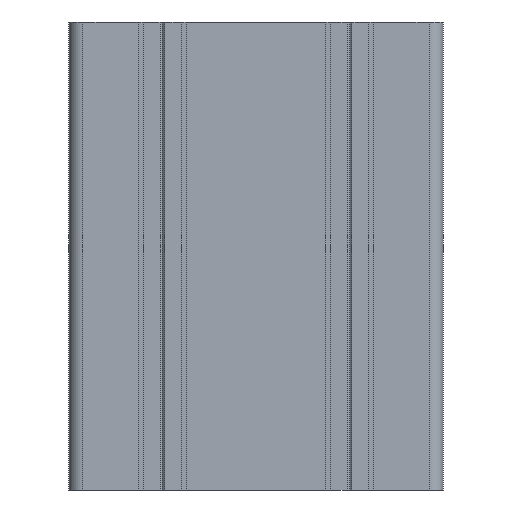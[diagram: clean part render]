
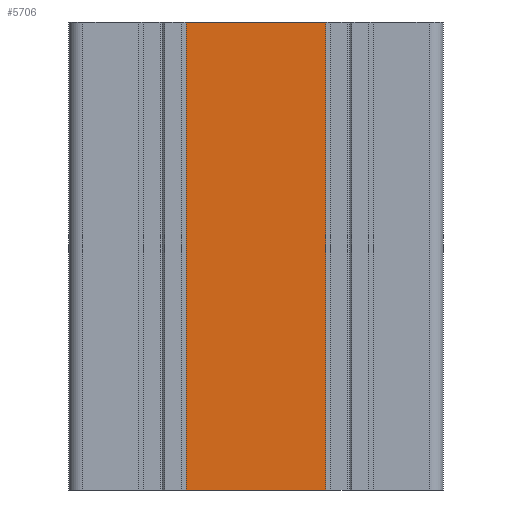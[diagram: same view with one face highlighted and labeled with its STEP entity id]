
A CAD part, front view. The second image highlights one B-rep face of the part: STEP entity #5706.
In plain terms, the highlighted planar face has unit normal (0, -1, 0).
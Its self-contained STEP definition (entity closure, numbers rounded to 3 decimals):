
#21 = LINE ( 'NONE', #6701, #4253 ) ;
#208 = CARTESIAN_POINT ( 'NONE',  ( 34.895, -19.996, 0. ) ) ;
#320 = CARTESIAN_POINT ( 'NONE',  ( 0., -19.996, -100. ) ) ;
#990 = CARTESIAN_POINT ( 'NONE',  ( 34.895, -19.996, -100. ) ) ;
#1070 = PLANE ( 'NONE',  #4607 ) ;
#1249 = DIRECTION ( 'NONE',  ( 0., 0., 1. ) ) ;
#1353 = EDGE_CURVE ( 'NONE', #5954, #5544, #7120, .T. ) ;
#1484 = VERTEX_POINT ( 'NONE', #2058 ) ;
#1523 = DIRECTION ( 'NONE',  ( 0., 0., 1. ) ) ;
#2010 = CARTESIAN_POINT ( 'NONE',  ( 5.095, -19.996, -100. ) ) ;
#2058 = CARTESIAN_POINT ( 'NONE',  ( 5.095, -19.996, 0. ) ) ;
#2279 = CARTESIAN_POINT ( 'NONE',  ( 34.895, -19.996, -100. ) ) ;
#2546 = CARTESIAN_POINT ( 'NONE',  ( 5.095, -19.996, -100. ) ) ;
#2769 = LINE ( 'NONE', #2010, #3258 ) ;
#2940 = EDGE_CURVE ( 'NONE', #1484, #4878, #21, .T. ) ;
#2953 = VECTOR ( 'NONE', #1523, 1000. ) ;
#3258 = VECTOR ( 'NONE', #1249, 1000. ) ;
#3660 = EDGE_CURVE ( 'NONE', #5544, #4878, #6876, .T. ) ;
#3662 = EDGE_LOOP ( 'NONE', ( #4892, #6618, #5073, #4489 ) ) ;
#3826 = FACE_OUTER_BOUND ( 'NONE', #3662, .T. ) ;
#4253 = VECTOR ( 'NONE', #5948, 1000. ) ;
#4338 = VECTOR ( 'NONE', #5585, 1000. ) ;
#4489 = ORIENTED_EDGE ( 'NONE', *, *, #3660, .T. ) ;
#4607 = AXIS2_PLACEMENT_3D ( 'NONE', #320, #7005, #6253 ) ;
#4878 = VERTEX_POINT ( 'NONE', #208 ) ;
#4892 = ORIENTED_EDGE ( 'NONE', *, *, #2940, .F. ) ;
#5073 = ORIENTED_EDGE ( 'NONE', *, *, #1353, .T. ) ;
#5544 = VERTEX_POINT ( 'NONE', #990 ) ;
#5585 = DIRECTION ( 'NONE',  ( 1., 0., 0. ) ) ;
#5691 = EDGE_CURVE ( 'NONE', #5954, #1484, #2769, .T. ) ;
#5706 = ADVANCED_FACE ( 'NONE', ( #3826 ), #1070, .T. ) ;
#5948 = DIRECTION ( 'NONE',  ( 1., 0., 0. ) ) ;
#5954 = VERTEX_POINT ( 'NONE', #2546 ) ;
#6253 = DIRECTION ( 'NONE',  ( 1., 0., 0. ) ) ;
#6365 = CARTESIAN_POINT ( 'NONE',  ( 0., -19.996, -100. ) ) ;
#6618 = ORIENTED_EDGE ( 'NONE', *, *, #5691, .F. ) ;
#6701 = CARTESIAN_POINT ( 'NONE',  ( 0., -19.996, 0. ) ) ;
#6876 = LINE ( 'NONE', #2279, #2953 ) ;
#7005 = DIRECTION ( 'NONE',  ( 0., -1., 0. ) ) ;
#7120 = LINE ( 'NONE', #6365, #4338 ) ;
